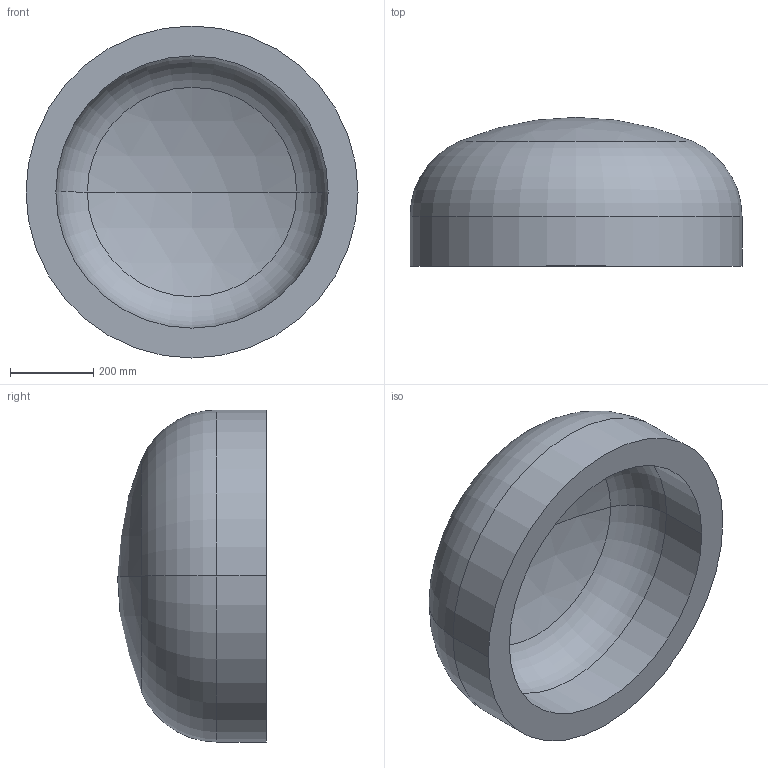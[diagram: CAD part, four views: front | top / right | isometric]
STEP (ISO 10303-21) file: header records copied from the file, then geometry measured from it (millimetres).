
FILE_DESCRIPTION (( 'STEP AP203' ), '1' );
FILE_NAME ('DIN 28013 Korbbogenform_-_Boden DIN 28013 - 800 x 120 - I - s=72.step', '2016-07-01T08:20:24', ( '' ), ( '' ), 'SwSTEP 2.0', 'SolidWorks 2013', '' );
FILE_SCHEMA (( 'CONFIG_CONTROL_DESIGN' ));
Length unit declared in the file: millimetre
Products named in the file (1): DIN 28013 Korbbogenform_-_Boden DIN 28013 - 800 x 120 - I - s=72
Bounding box: 800 x 358.7 x 800 mm (x, y, z)
Volume: 64704931.2 mm3; surface area: 1972886 mm2
Topology: 1 solids, 1 shells, 13 faces, 24 edges, 14 vertices
Faces by surface type: torus 4, cylinder 4, sphere 4, plane 1
Entity records: 407 total; most frequent: DIRECTION 72, CARTESIAN_POINT 52, ORIENTED_EDGE 48, AXIS2_PLACEMENT_3D 34, EDGE_CURVE 24, CIRCLE 20, VERTEX_POINT 14, EDGE_LOOP 14
